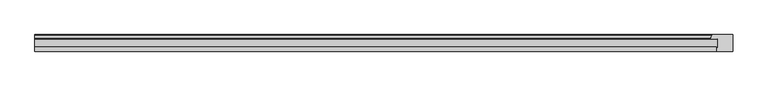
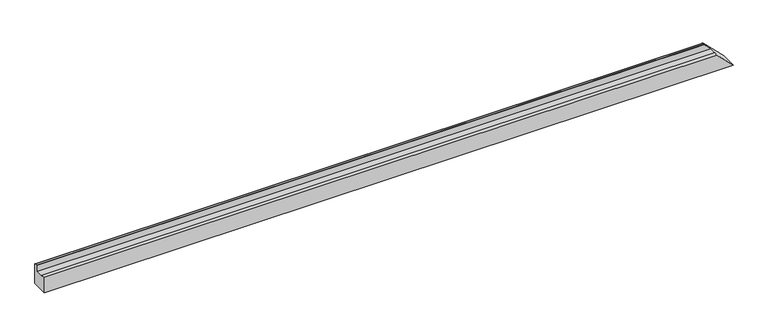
"""IFC4 building model written with IfcOpenShell, lengths in millimetres: proxy geometry, Weiku - Montante - Caixilho 02.2.01.005 : Weiku - Montante - Caixilho 02.2.01.005."""

import ifcopenshell
import ifcopenshell.guid

model = None  # the IFC model being written
_history = None  # IfcOwnerHistory: only IFC2X3 demands one
_inside = {}  # id of a spatial element -> (the spatial element, [elements in it])
_under = {}  # id of a project, library or spatial element -> (it, [spatial elements below it])
_declared = {}  # id of a project -> (the project, [libraries it declares])
_typed = {}  # id of a type object -> (the type object, [elements of that type])
_made_of = {}  # id of a material, layer set ... -> (it, [elements and type objects made of it])


def new_model(schema):
    """Start an empty IFC model of exactly this schema.

    Asked for "IFC4X3", IfcOpenShell would pick the latest addendum, in which some entities
    have other attributes; the version numbers below select the first issue.
    IFC2X3 requires an IfcOwnerHistory on every rooted entity: one is made here for all.
    """
    global model, _history
    if schema == "IFC4X3":
        model = ifcopenshell.file(schema_version=(4, 3, 0, 0))
    else:
        model = ifcopenshell.file(schema=schema)
    _inside.clear()
    _under.clear()
    _declared.clear()
    _typed.clear()
    _made_of.clear()
    _history = None
    if model.schema == "IFC2X3":
        org = make("IfcOrganization", Name="unknown")
        user = make(
            "IfcPersonAndOrganization",
            ThePerson=make("IfcPerson", FamilyName="unknown"),
            TheOrganization=org,
        )
        app = make(
            "IfcApplication",
            ApplicationDeveloper=org,
            Version="unknown",
            ApplicationFullName="unknown",
            ApplicationIdentifier="unknown",
        )
        _history = make(
            "IfcOwnerHistory",
            OwningUser=user,
            OwningApplication=app,
            ChangeAction="ADDED",
            CreationDate=0,
        )
    return model


def make(cls, **values):
    """One entity of the class cls with the attributes given. An attribute that is None is left unset."""
    return model.create_entity(
        cls, **{name: value for name, value in values.items() if value is not None}
    )


def rooted(cls, **values):
    """An entity with a GlobalId (a new one), such as an element, a storey or a relation."""
    return make(cls, GlobalId=ifcopenshell.guid.new(), OwnerHistory=_history, **values)


def si_unit(unit_type, name, prefix=None):
    """IfcSIUnit, for example si_unit("LENGTHUNIT", "METRE", prefix="MILLI")."""
    return make("IfcSIUnit", UnitType=unit_type, Prefix=prefix, Name=name)


def assignment(units):
    """IfcUnitAssignment: the units of a project."""
    return None if units is None else make("IfcUnitAssignment", Units=units)


def point(xyz):
    """IfcCartesianPoint."""
    return None if xyz is None else make("IfcCartesianPoint", Coordinates=xyz)


def direction(xyz):
    """IfcDirection."""
    return None if xyz is None else make("IfcDirection", DirectionRatios=xyz)


def frame(location, z_axis=None, x_axis=None):
    """IfcAxis2Placement3D, a coordinate frame: its origin and axes. An axis left out is left unset."""
    return make(
        "IfcAxis2Placement3D",
        Location=point(location),
        Axis=direction(z_axis),
        RefDirection=direction(x_axis),
    )


def origin():
    """The frame at (0, 0, 0) with its axes left unset."""
    return frame((0.0, 0.0, 0.0))


def place(relative_to, where):
    """IfcLocalPlacement: puts the frame where relative to a parent placement (None: the world)."""
    return make(
        "IfcLocalPlacement", PlacementRelTo=relative_to, RelativePlacement=where
    )


def context(
    kind, dimensions, precision=None, world=None, true_north=None, identifier=None
):
    """IfcGeometricRepresentationContext, for example the 3D "Model" context."""
    return make(
        "IfcGeometricRepresentationContext",
        ContextIdentifier=identifier,
        ContextType=kind,
        CoordinateSpaceDimension=dimensions,
        Precision=precision,
        WorldCoordinateSystem=world,
        TrueNorth=true_north,
    )


def project(units=None, contexts=None):
    """IfcProject with its units and contexts."""
    return rooted(
        "IfcProject",
        Name="project",
        RepresentationContexts=contexts,
        UnitsInContext=assignment(units),
    )


def spatial(cls, under=None, at=None, **own):
    """A site, building, storey or space (cls), placed at a placement, below another one or the project."""
    s = rooted(cls, ObjectPlacement=at, **own)
    if under is not None:
        _under.setdefault(under.id(), (under, []))[1].append(s)
    return s


def circle_curve(where, radius):
    """IfcCircle in the frame where."""
    return make("IfcCircle", Position=where, Radius=radius)


def ellipse_curve(where, semi_axis1, semi_axis2):
    """IfcEllipse in the frame where."""
    return make(
        "IfcEllipse", Position=where, SemiAxis1=semi_axis1, SemiAxis2=semi_axis2
    )


def shape(context_of_items, identifier, shape_type, items):
    """IfcShapeRepresentation: the items that make up one representation, for example the "Body"."""
    return make(
        "IfcShapeRepresentation",
        ContextOfItems=context_of_items,
        RepresentationIdentifier=identifier,
        RepresentationType=shape_type,
        Items=items,
    )


def source(mapping_origin, context_of_items, identifier, shape_type, items):
    """IfcRepresentationMap: a shape defined once, which mapped items show again and again."""
    return make(
        "IfcRepresentationMap",
        MappingOrigin=mapping_origin,
        MappedRepresentation=shape(context_of_items, identifier, shape_type, items),
    )


def transform(
    local_origin,
    x_axis=None,
    y_axis=None,
    z_axis=None,
    scale=None,
    scale2=None,
    scale3=None,
    uniform=True,
):
    """IfcCartesianTransformationOperator3D, or its non-uniform kind. x_axis, y_axis, z_axis: its Axis1, 2, 3."""
    if uniform:
        return make(
            "IfcCartesianTransformationOperator3D",
            Axis1=direction(x_axis),
            Axis2=direction(y_axis),
            LocalOrigin=point(local_origin),
            Scale=scale,
            Axis3=direction(z_axis),
        )
    return make(
        "IfcCartesianTransformationOperator3DnonUniform",
        Axis1=direction(x_axis),
        Axis2=direction(y_axis),
        LocalOrigin=point(local_origin),
        Scale=scale,
        Axis3=direction(z_axis),
        Scale2=scale2,
        Scale3=scale3,
    )


def mapped(mapping_source, mapping_target):
    """IfcMappedItem: shows the shape of a source again, moved by a transform."""
    return make(
        "IfcMappedItem", MappingSource=mapping_source, MappingTarget=mapping_target
    )


def made_of(thing, what):
    """Note that an element or type object is made of a material, layer set ...; save() writes the relation."""
    if what is not None:
        _made_of.setdefault(what.id(), (what, []))[1].append(thing)
    return thing


def element(
    cls,
    number,
    at=None,
    inside=None,
    cuts=None,
    type_object=None,
    material=None,
    context=None,
    identifier="Body",
    shape_type=None,
    held_by="IfcProductDefinitionShape",
    body=None,
    shapes=None,
    **own,
):
    """One element of the class cls, such as IfcWall. Its Tag is "e" and its number.

    at: its placement. inside: the storey or other place that contains it. cuts: it is an
    opening in that element (IfcRelVoidsElement). A single representation is given by context,
    identifier, shape_type and body (its items); several are given by shapes. held_by: the class
    of the entity that holds the representations. save() writes the other relations.
    """
    e = rooted(cls, Tag="e%d" % number, ObjectPlacement=at, **own)
    if body is not None:
        shapes = [shape(context, identifier, shape_type, body)]
    if shapes is not None:
        e.Representation = make(held_by, Representations=shapes)
    if inside is not None:
        _inside.setdefault(inside.id(), (inside, []))[1].append(e)
    if cuts is not None:
        rooted(
            "IfcRelVoidsElement", RelatingBuildingElement=cuts, RelatedOpeningElement=e
        )
    if type_object is not None:
        _typed.setdefault(type_object.id(), (type_object, []))[1].append(e)
    return made_of(e, material)


def aggregate(whole, parts):
    """IfcRelAggregates: a whole, such as a stair, and the parts it consists of."""
    return rooted("IfcRelAggregates", RelatingObject=whole, RelatedObjects=parts)


def save(model, path):
    """Write the relations noted so far, then the file.

    IfcRelAggregates (storeys below a building ...), IfcRelContainedInSpatialStructure (elements
    in a storey), IfcRelDefinesByType, IfcRelAssociatesMaterial and IfcRelDeclares: one each for
    every whole, place, type object, material and project.
    """
    for whole, parts in _under.values():
        aggregate(whole, parts)
    for where, things in _inside.values():
        rooted(
            "IfcRelContainedInSpatialStructure",
            RelatedElements=things,
            RelatingStructure=where,
        )
    for kind, things in _typed.values():
        rooted("IfcRelDefinesByType", RelatedObjects=things, RelatingType=kind)
    for what, things in _made_of.values():
        rooted("IfcRelAssociatesMaterial", RelatedObjects=things, RelatingMaterial=what)
    for by, libraries in _declared.values():
        rooted("IfcRelDeclares", RelatingContext=by, RelatedDefinitions=libraries)
    model.write(path)


def plane_surface(at):
    """IfcPlane: the flat surface through the origin of the frame at, square to its z axis."""
    return make("IfcPlane", Position=at)


def cylinder_surface(at, radius):
    """IfcCylindricalSurface: all points at the distance radius from the z axis of the frame at."""
    return make("IfcCylindricalSurface", Position=at, Radius=radius)


def advanced_brep(points, edges, surfaces, faces):
    """IfcAdvancedBrep: a solid bounded by faces that lie on surfaces and meet in shared edges.

    An edge is (start, end): straight between two places in points (the first is 0);
    or (start, end, curve); or (start, end, curve, False) where it runs against its curve.
    A face is (place in surfaces, loops), or (place, loops, False) where it looks against
    its surface's normal. A loop lists edges by number (the first is 1), with a minus sign
    where the edge is run from its end to its start. The first loop is the outer one.
    """
    corners = [point(p) for p in points]
    vertices = [make("IfcVertexPoint", VertexGeometry=c) for c in corners]
    made = []
    for start, end, *more in edges:
        made.append(
            make(
                "IfcEdgeCurve",
                EdgeStart=vertices[start],
                EdgeEnd=vertices[end],
                EdgeGeometry=more[0] if more else make("IfcPolyline", Points=[corners[start], corners[end]]),
                SameSense=more[1] if len(more) > 1 else True,
            )
        )
    hull = []
    for where, loops, *sense in faces:
        bounds = []
        for j, loop in enumerate(loops):
            ring = [make("IfcOrientedEdge", EdgeElement=made[abs(k) - 1], Orientation=k > 0) for k in loop]
            bounds.append(
                make(
                    "IfcFaceOuterBound" if j == 0 else "IfcFaceBound",
                    Bound=make("IfcEdgeLoop", EdgeList=ring),
                    Orientation=True,
                )
            )
        hull.append(make("IfcAdvancedFace", Bounds=bounds, FaceSurface=surfaces[where], SameSense=sense[0] if sense else True))
    return make("IfcAdvancedBrep", Outer=make("IfcClosedShell", CfsFaces=hull))


def generic_models_4838af5c(model_context):
    return source(origin(), model_context, "Body", "AdvancedBrep", [
        advanced_brep(
        [(-1047.5, -12.5, 46.0), (1001.5, -12.5, 46.0), (981.3909676, -12.5, 66.1090324), (-1047.5, -12.5, 66.1090324), (-1047.5, -37.8314286, 46.0), (1001.5, -37.8314286, 46.0), (-1047.5, -37.027581, 49.0), (998.5, -37.027581, 49.0), (-1047.5, -50.0, 49.0), (998.5, -50.0, 49.0), (-1047.5, -50.0, 0.0), (1047.5, -50.0, 0.0), (-1047.5, 0.0, 0.0), (1047.5, 0.0, 0.0), (-1047.5, 0.0, 61.5002668), (985.9997332, 0.0, 61.5002668), (-1047.5, -11.4929448, 66.881773), (980.618227, -11.4929448, 66.881773), (983.1019557, -2.2235429, 64.3980443), (-1047.5, -2.2235429, 64.3980443)],
        [
            (0, 1),
            (1, 2),
            (2, 3),
            (3, 0),
            (4, 5),
            (5, 1),
            (0, 4),
            (6, 7),
            (7, 5),
            (4, 6),
            (8, 9),
            (9, 7),
            (6, 8),
            (10, 11),
            (11, 9),
            (8, 10),
            (12, 13),
            (13, 11),
            (10, 12),
            (14, 15),
            (15, 13),
            (12, 14),
            (16, 17),
            (17, 18),
            (18, 19),
            (19, 16),
            (15, 18, ellipse_curve(frame((985.9997332, -3.0, 61.5002668), z_axis=(0.7071067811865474, 0.0, 0.7071067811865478), x_axis=(-0.7071067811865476, 0.0, 0.7071067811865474)), 4.2426407, 3.0)),
            (17, 2, ellipse_curve(frame((981.3909676, -11.7, 66.1090324), z_axis=(0.7071067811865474, 0.0, 0.7071067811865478), x_axis=(-0.7071067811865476, 0.0, 0.7071067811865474)), 1.1313708, 0.8)),
            (16, 3, circle_curve(frame((-1047.5, -11.7, 66.1090324), z_axis=(1.0, 0.0, 0.0), x_axis=(0.0, -1.0, 0.0)), 0.8)),
            (14, 19, circle_curve(frame((-1047.5, -3.0, 61.5002668), z_axis=(1.0, 0.0, 0.0), x_axis=(0.0, -1.0, 0.0)), 3.0)),
        ],
        [
            plane_surface(frame((-1047.5, -12.5, 66.1090324), z_axis=(0.0, -1.0, 0.0), x_axis=(1.0, 0.0, 0.0))),
            plane_surface(frame((-1047.5, -12.5, 46.0), z_axis=(0.0, 0.0, 1.0), x_axis=(1.0, 0.0, 0.0))),
            plane_surface(frame((-1047.5, -37.8314286, 46.0), z_axis=(0.0, 0.9659258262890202, -0.2588190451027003), x_axis=(1.0, 0.0, 0.0))),
            plane_surface(frame((-1047.5, -37.027581, 49.0), z_axis=(0.0, 0.0, 1.0), x_axis=(1.0, 0.0, 0.0))),
            plane_surface(frame((-1047.5, -50.0, 49.0), z_axis=(0.0, -1.0, 0.0), x_axis=(1.0, 0.0, 0.0))),
            plane_surface(frame((-1047.5, -50.0, 0.0), z_axis=(0.0, 0.0, -1.0), x_axis=(1.0, 0.0, 0.0))),
            plane_surface(frame((-1047.5, 0.0, 0.0), z_axis=(0.0, 1.0, 0.0), x_axis=(1.0, 0.0, 0.0))),
            plane_surface(frame((-1047.5, -2.2235429, 64.3980443), z_axis=(0.0, 0.2588190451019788, 0.9659258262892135), x_axis=(1.0, 0.0, 0.0))),
            plane_surface(frame((977.5, 15.0, 70.0), z_axis=(0.7071067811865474, 0.0, 0.7071067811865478), x_axis=(0.0, -1.0, 0.0))),
            cylinder_surface(frame((-1047.5, -11.7, 66.1090324), z_axis=(-1.0, 0.0, 0.0), x_axis=(0.0, -1.0, 0.0)), 0.8),
            cylinder_surface(frame((-1047.5, -3.0, 61.5002668), z_axis=(-1.0, 0.0, 0.0), x_axis=(0.0, -1.0, 0.0)), 3.0),
            plane_surface(frame((-1047.5, 0.0, 0.0), z_axis=(-1.0, 0.0, 0.0), x_axis=(0.0, 0.0, 1.0))),
        ],
        [
            (0, [[1, 2, 3, 4]]),
            (1, [[5, 6, -1, 7]]),
            (2, [[8, 9, -5, 10]]),
            (3, [[11, 12, -8, 13]]),
            (4, [[14, 15, -11, 16]]),
            (5, [[17, 18, -14, 19]]),
            (6, [[20, 21, -17, 22]]),
            (7, [[23, 24, 25, 26]]),
            (8, [[-6, -9, -12, -15, -18, -21, 27, -24, 28, -2]]),
            (9, [[-3, -28, -23, 29]]),
            (10, [[-25, -27, -20, 30]]),
            (11, [[-26, -30, -22, -19, -16, -13, -10, -7, -4, -29]]),
        ],
    ),
    ])


if __name__ == "__main__":
    model = new_model("IFC4")
    model_context = context("Model", 3, world=origin())
    ifc_project = project(units=[si_unit("LENGTHUNIT", "METRE", prefix="MILLI")], contexts=[model_context])
    site = spatial("IfcSite", under=ifc_project)
    building = spatial("IfcBuilding", under=site)
    placement = place(None, origin())
    generic_models_shape = generic_models_4838af5c(model_context)
    element("IfcBuildingElementProxy", 1, Name="Weiku - Montante - Caixilho 02.2.01.005 : Weiku - Montante - Caixilho 02.2.01.005", ObjectType="Weiku - Montante - Caixilho 02.2.01.005 : Weiku - Montante - Caixilho 02.2.01.005", at=placement, inside=building, context=model_context, shape_type="MappedRepresentation", body=[
        mapped(generic_models_shape, transform((0.0, 0.0, 0.0), x_axis=(1.0, 0.0, 0.0), y_axis=(0.0, 1.0, 0.0), z_axis=(0.0, 0.0, 1.0))),
    ])
    save(model, "model.ifc")
